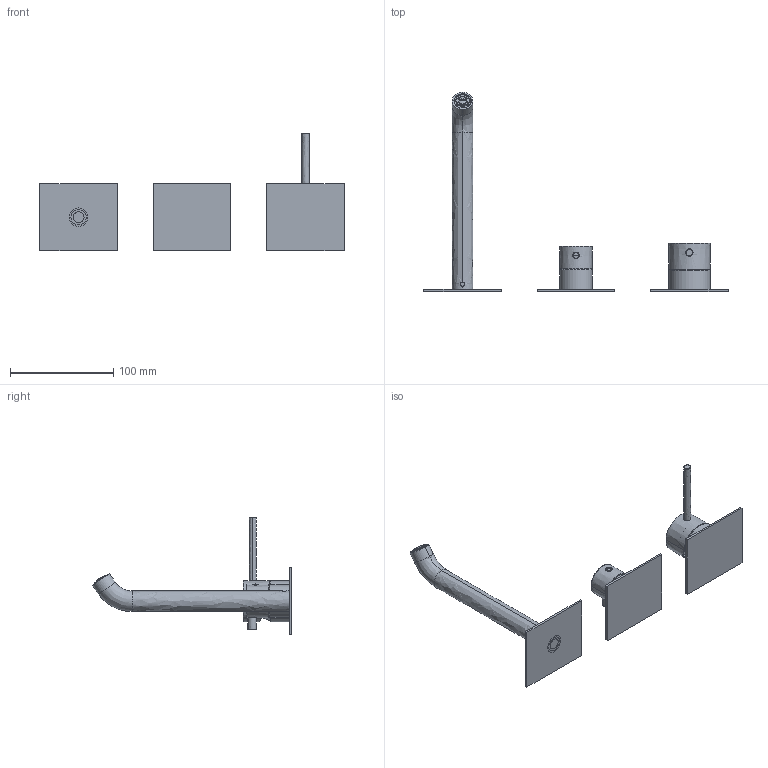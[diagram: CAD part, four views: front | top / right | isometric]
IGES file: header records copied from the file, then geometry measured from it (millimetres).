
Start section:  PTC IGES file: 69568v2.igs
Global section: file name: 69568v2.igs; native system: Creo Parametric by PTC Inc.; preprocessor: 2022014; author: carloff; organization: Unknown; date: 20251117.163603; units: millimetre
Bounding box: 295 x 193.13 x 114 mm (x, y, z)
Surface area: 88343.9 mm2 (no closed solid volume)
Topology: 0 solids, 0 shells, 2060 faces, 12200 edges, 12190 vertices
Faces by surface type: bspline 1582, revolution 475, extrusion 3
